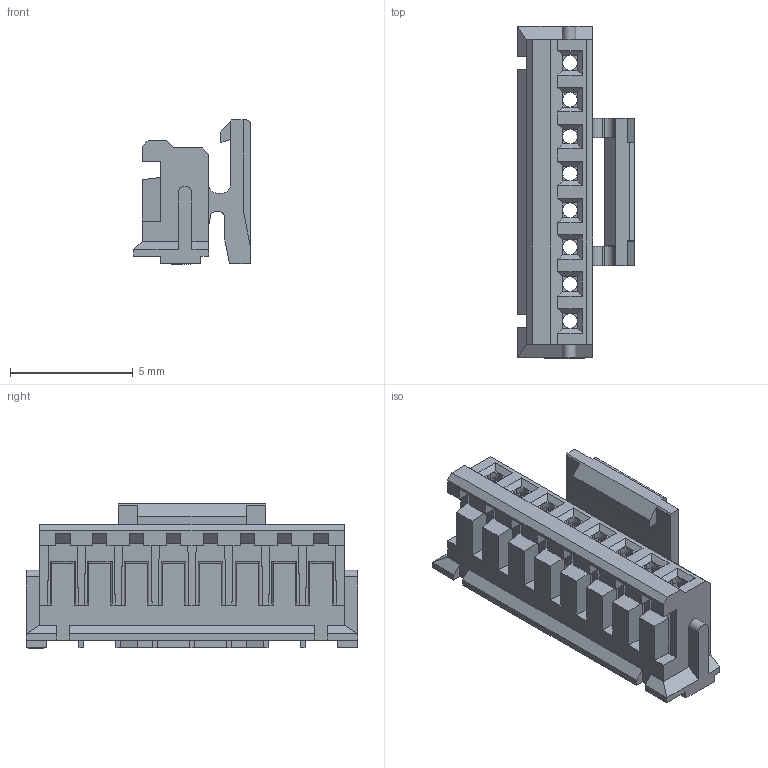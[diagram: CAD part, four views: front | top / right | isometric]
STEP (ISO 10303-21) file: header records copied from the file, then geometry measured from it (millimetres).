
FILE_DESCRIPTION (( 'STEP AP203' ), '1' );
FILE_NAME ('GT-A1501HM1-108W01.STEP', '2025-12-27T09:02:31', ( '' ), ( '' ), 'SwSTEP 2.0', 'SolidWorks 2020', '' );
FILE_SCHEMA (( 'CONFIG_CONTROL_DESIGN' ));
Length unit declared in the file: millimetre
Products named in the file (1): GT-A1501HM1-108W01
Bounding box: 4.75 x 13.5 x 5.88 mm (x, y, z)
Volume: 100.1 mm3; surface area: 545.3 mm2
Topology: 1 solids, 1 shells, 645 faces, 1784 edges, 1140 vertices
Faces by surface type: plane 543, bspline 71, cylinder 31
Entity records: 23667 total; most frequent: CARTESIAN_POINT 7577, ORIENTED_EDGE 3568, DIRECTION 2870, EDGE_CURVE 1784, LINE 1564, VECTOR 1564, VERTEX_POINT 1140, EDGE_LOOP 678
